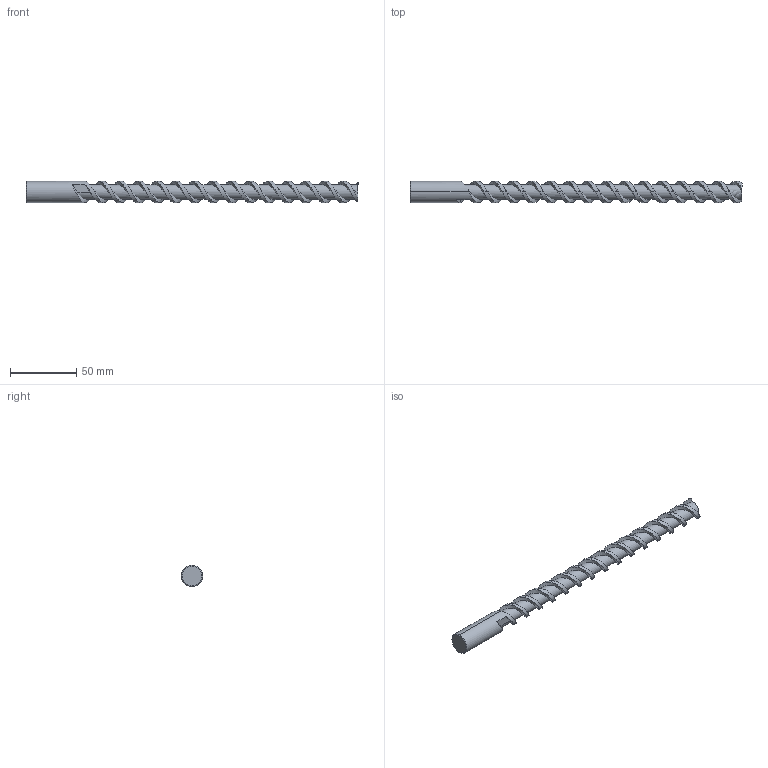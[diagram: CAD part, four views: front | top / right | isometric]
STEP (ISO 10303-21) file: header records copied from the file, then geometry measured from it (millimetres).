
FILE_DESCRIPTION (( 'STEP AP214' ), '1' );
FILE_NAME ('E2122_16_250.STEP', '2013-04-10T07:04:55', ( '' ), ( '' ), 'SwSTEP 2.0', 'SolidWorks 2013', '' );
FILE_SCHEMA (( 'AUTOMOTIVE_DESIGN' ));
Length unit declared in the file: millimetre
Products named in the file (1): E2122_16_250
Bounding box: 250 x 16 x 16 mm (x, y, z)
Volume: 33799.3 mm3; surface area: 13514.3 mm2
Topology: 1 solids, 1 shells, 46 faces, 126 edges, 82 vertices
Faces by surface type: cylinder 30, plane 8, bspline 6, cone 2
Entity records: 9250 total; most frequent: CARTESIAN_POINT 7783, ORIENTED_EDGE 252, DIRECTION 138, EDGE_CURVE 126, VERTEX_POINT 82, UNCERTAINTY_MEASURE_WITH_UNIT 49, STYLED_ITEM 48, PRESENTATION_LAYER_ASSIGNMENT 48
